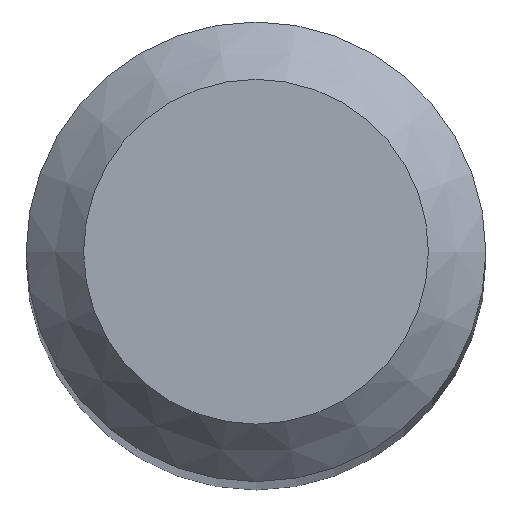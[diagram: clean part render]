
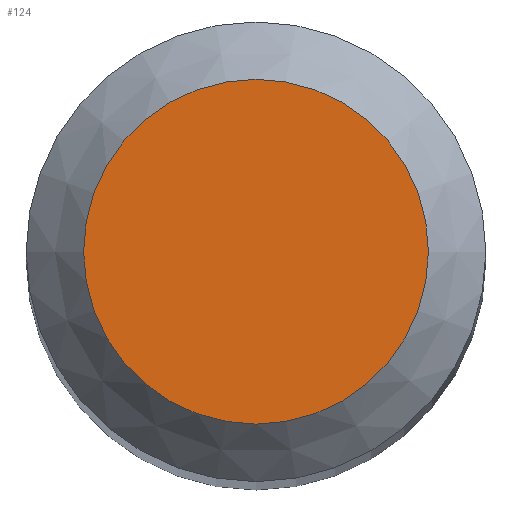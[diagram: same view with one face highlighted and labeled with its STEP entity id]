
A CAD part, top view. The second image highlights one B-rep face of the part: STEP entity #124.
In plain terms, the highlighted planar face has unit normal (0, 0, 1).
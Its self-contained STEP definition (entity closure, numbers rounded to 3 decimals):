
#108=CARTESIAN_POINT('',(1.5,0.0,53.0));
#109=DIRECTION('',(0.0,0.0,1.0));
#110=DIRECTION('',(1.0,0.0,0.0));
#111=AXIS2_PLACEMENT_3D('',#108,#109,#110);
#112=PLANE('',#111);
#113=CARTESIAN_POINT('',(-1.5,0.0,53.0));
#114=VERTEX_POINT('',#113);
#115=CARTESIAN_POINT('',(0.0,0.0,53.0));
#116=DIRECTION('',(0.0,0.0,-1.0));
#117=DIRECTION('',(-1.0,0.0,0.0));
#118=AXIS2_PLACEMENT_3D('',#115,#116,#117);
#119=CIRCLE('',#118,1.5);
#120=EDGE_CURVE('',#114,#114,#119,.T.);
#121=ORIENTED_EDGE('',*,*,#120,.F.);
#122=EDGE_LOOP('',(#121));
#123=FACE_OUTER_BOUND('',#122,.T.);
#124=ADVANCED_FACE('',(#123),#112,.T.);
